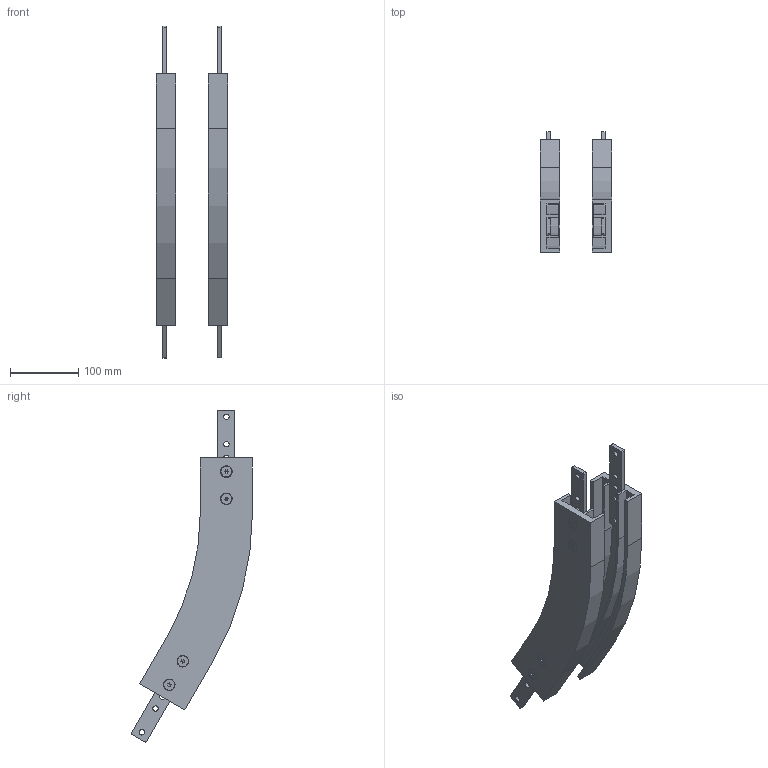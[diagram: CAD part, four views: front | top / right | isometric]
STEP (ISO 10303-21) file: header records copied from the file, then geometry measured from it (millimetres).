
FILE_DESCRIPTION (( 'STEP AP203' ), '1' );
FILE_NAME ('FCVB-30 R400.STEP', '2007-12-12T08:53:04', ( ' ' ), ( ' ' ), 'SwSTEP 2.0', 'SolidWorks 2008', '' );
FILE_SCHEMA (( 'CONFIG_CONTROL_DESIGN' ));
Length unit declared in the file: millimetre
Products named in the file (4): courbe verticale FC105-R400_30R400; Vis F HC, M 8x12_Défaut; FACS-25.éclisse larg 25mm; FCVB-30 R400
Assembly tree (13 placements, depth 2):
  FCVB-30 R400
    Vis F HC, M 8x12_Défaut  x8
    FACS-25.éclisse larg 25mm  x4
    courbe verticale FC105-R400_30R400
Bounding box: 105 x 176.83 x 485.42 mm (x, y, z)
Volume: 880483 mm3; surface area: 280177.8 mm2
Topology: 14 solids, 14 shells, 468 faces, 1216 edges, 768 vertices
Faces by surface type: plane 204, cylinder 176, cone 72, bspline 16
Entity records: 7288 total; most frequent: CARTESIAN_POINT 2597, DIRECTION 845, ORIENTED_EDGE 830, EDGE_CURVE 415, AXIS2_PLACEMENT_3D 291, VERTEX_POINT 268, LINE 263, VECTOR 263
